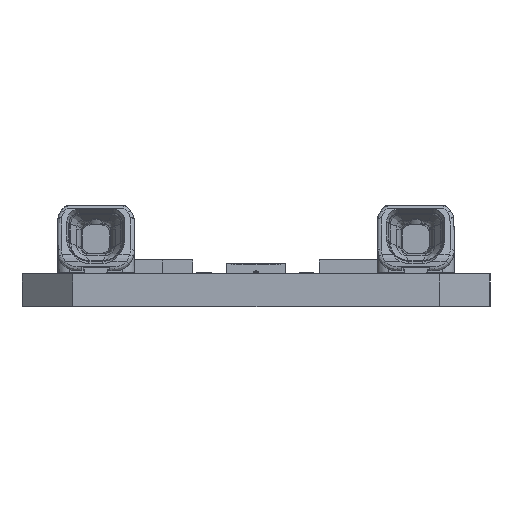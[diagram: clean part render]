
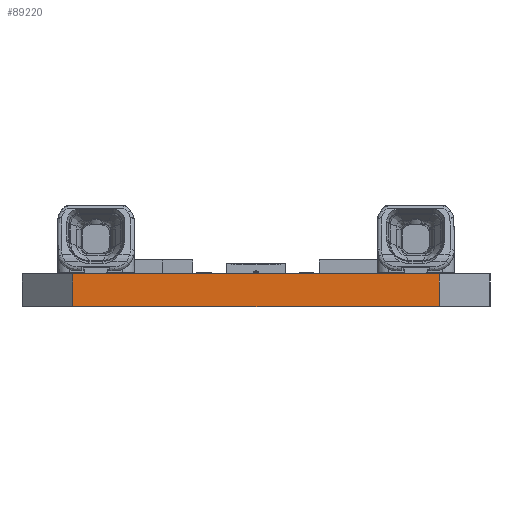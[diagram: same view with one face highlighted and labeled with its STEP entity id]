
A CAD part, left-side view. The second image highlights one B-rep face of the part: STEP entity #89220.
In plain terms, the highlighted planar face has unit normal (-1, 0, 0).
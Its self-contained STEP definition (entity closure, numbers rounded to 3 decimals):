
#6572=DIRECTION('',(0.,0.,1.));
#6573=VECTOR('',#6572,1.651);
#6574=CARTESIAN_POINT('',(-139.5,9.25,0.));
#6575=LINE('',#6574,#6573);
#6579=DIRECTION('',(0.,0.,1.));
#6580=VECTOR('',#6579,1.651);
#6581=CARTESIAN_POINT('',(-139.5,-9.25,0.));
#6582=LINE('',#6581,#6580);
#6586=DIRECTION('',(0.,-1.,0.));
#6587=VECTOR('',#6586,18.5);
#6588=CARTESIAN_POINT('',(-139.5,9.25,0.));
#6589=LINE('',#6588,#6587);
#6593=DIRECTION('',(0.,1.,0.));
#6594=VECTOR('',#6593,18.5);
#6595=CARTESIAN_POINT('',(-139.5,-9.25,1.651));
#6596=LINE('',#6595,#6594);
#75945=CARTESIAN_POINT('',(-139.5,9.25,0.));
#75946=CARTESIAN_POINT('',(-139.5,-9.25,0.));
#75947=VERTEX_POINT('',#75945);
#75948=VERTEX_POINT('',#75946);
#76033=CARTESIAN_POINT('',(-139.5,-9.25,1.651));
#76034=VERTEX_POINT('',#76033);
#76069=CARTESIAN_POINT('',(-139.5,9.25,1.651));
#76070=VERTEX_POINT('',#76069);
#89207=CARTESIAN_POINT('',(-139.5,9.25,1.65));
#89208=DIRECTION('',(-1.,0.,0.));
#89209=DIRECTION('',(0.,0.,1.));
#89210=AXIS2_PLACEMENT_3D('',#89207,#89208,#89209);
#89211=PLANE('',#89210);
#89213=ORIENTED_EDGE('',*,*,#89212,.F.);
#89215=ORIENTED_EDGE('',*,*,#89214,.F.);
#89216=ORIENTED_EDGE('',*,*,#89191,.T.);
#89217=ORIENTED_EDGE('',*,*,#86566,.F.);
#89218=EDGE_LOOP('',(#89213,#89215,#89216,#89217));
#89219=FACE_OUTER_BOUND('',#89218,.F.);
#86566=EDGE_CURVE('',#76034,#76070,#6596,.T.);
#89191=EDGE_CURVE('',#75947,#76070,#6575,.T.);
#89212=EDGE_CURVE('',#75948,#76034,#6582,.T.);
#89214=EDGE_CURVE('',#75947,#75948,#6589,.T.);
#89220=ADVANCED_FACE('',(#89219),#89211,.T.);
